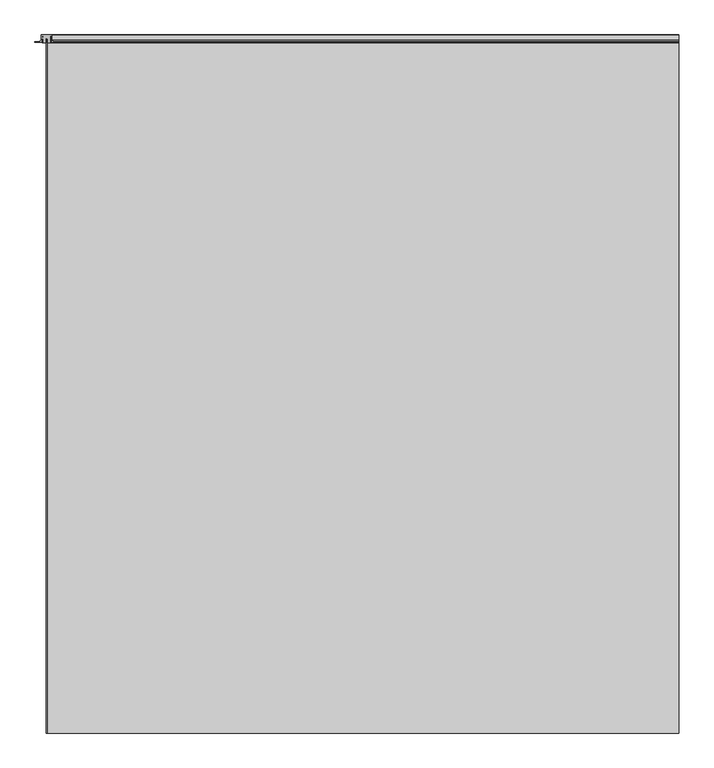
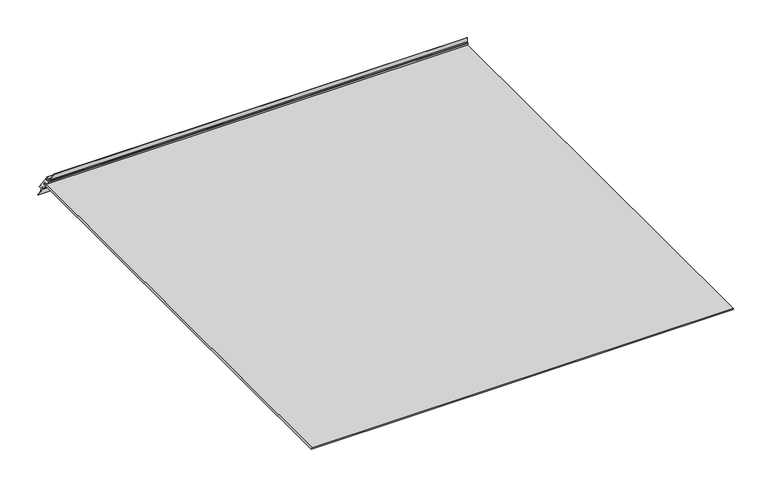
"""IFC4 building model written with IfcOpenShell, lengths in millimetres: proxy geometry, Specialy Equipment_Blindspace_TrackTrim-Click-to-Recess-Curtain-Tracks-Straight-Track : 2400 mm x 2600 mm."""

from ifc_helpers import new_model, si_unit, frame, origin, place, context, project, spatial, polyline, circle_curve, ellipse_curve, outline, extrude, source, transform, mapped, element, save
from ifc_brep_helpers import plane_surface, cylinder_surface, advanced_brep


def specialty_equipment_94f7accb(model_context):
    return source(origin(), model_context, "Body", "SolidModel", [
        advanced_brep(
        [(1200.0, 1300.0, -64.9988864), (1200.0, 1300.0, -25.0011136), (1200.0, 1299.4988864, -24.5), (1200.0, 1279.5663509, -24.5), (1200.0, 1274.5, -20.0957837), (1200.0, 1274.5, 0.0), (1200.0, 1272.4387528, 0.0), (1200.0, 1272.4387528, -24.3752503), (1200.0, 1270.0, -27.3062361), (1200.0, 1273.6097179, -27.3062361), (1200.0, 1295.5252948, -29.1221391), (1200.0, 1295.5252948, -31.1066667), (1200.0, 1270.0, -31.1066667), (1200.0, 1270.0, -42.0), (1200.0, 1286.4878459, -42.0), (1200.0, 1286.4878459, -48.0), (1200.0, 1270.0, -48.0), (1200.0, 1270.0, -58.8933333), (1200.0, 1295.5252948, -58.8933333), (1200.0, 1295.5252948, -60.8778609), (1200.0, 1273.6097179, -62.6937639), (1200.0, 1270.0, -62.6937639), (1200.0, 1272.4387528, -65.6247497), (1200.0, 1272.4387528, -90.0), (1200.0, 1274.5, -90.0), (1200.0, 1274.5, -69.9042163), (1200.0, 1279.5663509, -65.5), (1200.0, 1299.4988864, -65.5), (-1175.5, 1299.4988864, -65.5), (-1174.9988864, 1300.0, -64.9988864), (-1175.5, 1279.5663509, -65.5), (-1179.9042163, 1274.5, -69.9042163), (-1200.0, 1274.5, -90.0), (-1200.0, 1272.4387528, -90.0), (-1175.6247497, 1272.4387528, -65.6247497), (-1172.6937639, 1270.0, -62.6937639), (-1172.6937639, 1273.6097179, -62.6937639), (-1137.3062361, 1270.0, -27.3062361), (-1137.3062361, 1273.6097179, -27.3062361), (-1134.3752503, 1272.4387528, -24.3752503), (-1110.0, 1272.4387528, 0.0), (-1110.0, 1274.5, 0.0), (-1130.0957837, 1274.5, -20.0957837), (-1134.5, 1279.5663509, -24.5), (-1134.5, 1299.4988864, -24.5), (-1135.0011136, 1300.0, -25.0011136), (-1170.8778609, 1295.5252948, -60.8778609), (-1168.8933333, 1295.5252948, -58.8933333), (-1168.8933333, 1270.0, -58.8933333), (-1158.0, 1270.0, -48.0), (-1158.0, 1286.4878459, -48.0), (-1152.0, 1286.4878459, -42.0), (-1152.0, 1270.0, -42.0), (-1141.1066667, 1270.0, -31.1066667), (-1141.1066667, 1295.5252948, -31.1066667), (-1139.1221391, 1295.5252948, -29.1221391)],
        [
            (0, 1),
            (1, 2, circle_curve(frame((1200.0, 1299.4988864, -25.0011136), z_axis=(1.0, 0.0, 0.0), x_axis=(0.0, 1.0, 0.0)), 0.5011136)),
            (2, 3),
            (3, 4, circle_curve(frame((1200.0, 1275.9465479, -23.5478842), z_axis=(1.0, 0.0, 0.0), x_axis=(0.0, 1.0, 0.0)), 3.7429265)),
            (4, 5),
            (5, 6),
            (6, 7),
            (7, 8),
            (8, 9),
            (9, 10),
            (10, 11),
            (11, 12),
            (12, 13),
            (13, 14),
            (14, 15),
            (15, 16),
            (16, 17),
            (17, 18),
            (18, 19),
            (19, 20),
            (20, 21),
            (21, 22),
            (22, 23),
            (23, 24),
            (24, 25),
            (25, 26, circle_curve(frame((1200.0, 1275.9465479, -66.4521158), z_axis=(1.0, 0.0, 0.0), x_axis=(0.0, 1.0, 0.0)), 3.7429265)),
            (26, 27),
            (27, 0, circle_curve(frame((1200.0, 1299.4988864, -64.9988864), z_axis=(1.0, 0.0, 0.0), x_axis=(0.0, 1.0, 0.0)), 0.5011136)),
            (27, 28),
            (28, 29, ellipse_curve(frame((-1174.9988864, 1299.4988864, -64.9988864), z_axis=(0.7071067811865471, 0.0, -0.707106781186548), x_axis=(-0.7071067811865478, 0.0, -0.7071067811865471)), 0.7086816, 0.5011136)),
            (29, 0),
            (26, 30),
            (30, 28),
            (25, 31),
            (31, 30, ellipse_curve(frame((-1176.4521158, 1275.9465479, -66.4521158), z_axis=(0.7071067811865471, 0.0, -0.707106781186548), x_axis=(-0.7071067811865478, 0.0, -0.7071067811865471)), 5.2932974, 3.7429265)),
            (24, 32),
            (32, 31),
            (23, 33),
            (33, 32),
            (22, 34),
            (34, 33),
            (21, 35),
            (35, 34),
            (20, 36),
            (36, 35),
            (8, 37),
            (37, 38),
            (38, 9),
            (7, 39),
            (39, 37),
            (6, 40),
            (40, 39),
            (5, 41),
            (41, 40),
            (4, 42),
            (42, 41),
            (3, 43),
            (43, 42, ellipse_curve(frame((-1133.5478842, 1275.9465479, -23.5478842), z_axis=(0.7071067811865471, 0.0, -0.707106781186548), x_axis=(-0.7071067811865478, 0.0, -0.7071067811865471)), 5.2932974, 3.7429265)),
            (2, 44),
            (44, 43),
            (1, 45),
            (45, 44, ellipse_curve(frame((-1135.0011136, 1299.4988864, -25.0011136), z_axis=(0.7071067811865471, 0.0, -0.707106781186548), x_axis=(-0.7071067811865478, 0.0, -0.7071067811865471)), 0.7086816, 0.5011136)),
            (29, 45),
            (19, 46),
            (46, 36),
            (18, 47),
            (47, 46),
            (17, 48),
            (48, 47),
            (16, 49),
            (49, 48),
            (15, 50),
            (50, 49),
            (14, 51),
            (51, 50),
            (13, 52),
            (52, 51),
            (12, 53),
            (53, 52),
            (11, 54),
            (54, 53),
            (10, 55),
            (55, 54),
            (38, 55),
        ],
        [
            plane_surface(frame((1200.0, 1300.0, -24.5), z_axis=(1.0, 0.0, 0.0), x_axis=(0.0, 0.0, 1.0))),
            cylinder_surface(frame((-1200.0, 1299.4988864, -64.9988864), z_axis=(-1.0, 0.0, 0.0), x_axis=(0.0, 1.0, 0.0)), 0.5011136),
            plane_surface(frame((-1200.0, 1299.4988864, -65.5), z_axis=(0.0, 0.0, -1.0), x_axis=(1.0, 0.0, 0.0))),
            cylinder_surface(frame((-1200.0, 1275.9465479, -66.4521158), z_axis=(-1.0, 0.0, 0.0), x_axis=(0.0, 1.0, 0.0)), 3.7429265),
            plane_surface(frame((-1200.0, 1274.5, -69.9042163), z_axis=(0.0, 1.0, 0.0), x_axis=(1.0, 0.0, 0.0))),
            plane_surface(frame((-1200.0, 1274.5, -90.0), z_axis=(0.0, 0.0, -1.0), x_axis=(1.0, 0.0, 0.0))),
            plane_surface(frame((-1200.0, 1272.4387528, -90.0), z_axis=(0.0, -1.0, 0.0), x_axis=(1.0, 0.0, 0.0))),
            plane_surface(frame((-1200.0, 1272.4387528, -65.6247497), z_axis=(0.0, -0.7687028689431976, -0.6396060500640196), x_axis=(1.0, 0.0, 0.0))),
            plane_surface(frame((-1200.0, 1270.0, -62.6937639), z_axis=(0.0, 0.0, 1.0), x_axis=(1.0, 0.0, 0.0))),
            plane_surface(frame((-1200.0, 1273.6097179, -27.3062361), z_axis=(0.0, 0.0, -1.0), x_axis=(1.0, 0.0, 0.0))),
            plane_surface(frame((-1200.0, 1270.0, -27.3062361), z_axis=(0.0, -0.7687028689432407, 0.6396060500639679), x_axis=(1.0, 0.0, 0.0))),
            plane_surface(frame((-1200.0, 1272.4387528, -24.3752503), z_axis=(0.0, -1.0, 0.0), x_axis=(1.0, 0.0, 0.0))),
            plane_surface(frame((-1200.0, 1272.4387528, 0.0), z_axis=(0.0, 0.0, 1.0), x_axis=(1.0, 0.0, 0.0))),
            plane_surface(frame((-1200.0, 1274.5, 0.0), z_axis=(0.0, 1.0, 0.0), x_axis=(1.0, 0.0, 0.0))),
            cylinder_surface(frame((-1200.0, 1275.9465479, -23.5478842), z_axis=(-1.0, 0.0, 0.0), x_axis=(0.0, 1.0, 0.0)), 3.7429265),
            plane_surface(frame((-1200.0, 1279.5663509, -24.5), z_axis=(0.0, 0.0, 1.0), x_axis=(1.0, 0.0, 0.0))),
            cylinder_surface(frame((-1200.0, 1299.4988864, -25.0011136), z_axis=(-1.0, 0.0, 0.0), x_axis=(0.0, 1.0, 0.0)), 0.5011136),
            plane_surface(frame((-1200.0, 1300.0, -25.0011136), z_axis=(0.0, 1.0, 0.0), x_axis=(1.0, 0.0, 0.0))),
            plane_surface(frame((-1200.0, 1273.6097179, -62.6937639), z_axis=(0.0, -0.08257602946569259, 0.9965847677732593), x_axis=(1.0, 0.0, 0.0))),
            plane_surface(frame((-1200.0, 1295.5252948, -60.8778609), z_axis=(0.0, -1.0, 0.0), x_axis=(1.0, 0.0, 0.0))),
            plane_surface(frame((-1200.0, 1295.5252948, -58.8933333), z_axis=(0.0, 0.0, -1.0), x_axis=(1.0, 0.0, 0.0))),
            plane_surface(frame((-1200.0, 1270.0, -58.8933333), z_axis=(0.0, -1.0, 0.0), x_axis=(1.0, 0.0, 0.0))),
            plane_surface(frame((-1200.0, 1270.0, -48.0), z_axis=(0.0, 0.0, 1.0), x_axis=(1.0, 0.0, 0.0))),
            plane_surface(frame((-1200.0, 1286.4878459, -48.0), z_axis=(0.0, -1.0, 0.0), x_axis=(1.0, 0.0, 0.0))),
            plane_surface(frame((-1200.0, 1286.4878459, -42.0), z_axis=(0.0, 0.0, -1.0), x_axis=(1.0, 0.0, 0.0))),
            plane_surface(frame((-1200.0, 1270.0, -42.0), z_axis=(0.0, -1.0, 0.0), x_axis=(1.0, 0.0, 0.0))),
            plane_surface(frame((-1200.0, 1270.0, -31.1066667), z_axis=(0.0, 0.0, 1.0), x_axis=(1.0, 0.0, 0.0))),
            plane_surface(frame((-1200.0, 1295.5252948, -31.1066667), z_axis=(0.0, -1.0, 0.0), x_axis=(1.0, 0.0, 0.0))),
            plane_surface(frame((-1200.0, 1295.5252948, -29.1221391), z_axis=(0.0, -0.08257602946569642, -0.996584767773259), x_axis=(1.0, 0.0, 0.0))),
            plane_surface(frame((-1215.0957684, -1300.0, -105.0957684), z_axis=(-0.7071067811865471, 0.0, 0.707106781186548), x_axis=(0.0, 1.0, 0.0))),
        ],
        [
            (0, [[1, 2, 3, 4, 5, 6, 7, 8, 9, 10, 11, 12, 13, 14, 15, 16, 17, 18, 19, 20, 21, 22, 23, 24, 25, 26, 27, 28]]),
            (1, [[-28, 29, 30, 31]]),
            (2, [[-27, 32, 33, -29]]),
            (3, [[-26, 34, 35, -32]]),
            (4, [[-25, 36, 37, -34]]),
            (5, [[-24, 38, 39, -36]]),
            (6, [[-23, 40, 41, -38]]),
            (7, [[-22, 42, 43, -40]]),
            (8, [[-21, 44, 45, -42]]),
            (9, [[-9, 46, 47, 48]]),
            (10, [[-8, 49, 50, -46]]),
            (11, [[-7, 51, 52, -49]]),
            (12, [[-6, 53, 54, -51]]),
            (13, [[-5, 55, 56, -53]]),
            (14, [[-4, 57, 58, -55]]),
            (15, [[-3, 59, 60, -57]]),
            (16, [[-2, 61, 62, -59]]),
            (17, [[-1, -31, 63, -61]]),
            (18, [[-20, 64, 65, -44]]),
            (19, [[-19, 66, 67, -64]]),
            (20, [[-18, 68, 69, -66]]),
            (21, [[-17, 70, 71, -68]]),
            (22, [[-16, 72, 73, -70]]),
            (23, [[-15, 74, 75, -72]]),
            (24, [[-14, 76, 77, -74]]),
            (25, [[-13, 78, 79, -76]]),
            (26, [[-12, 80, 81, -78]]),
            (27, [[-11, 82, 83, -80]]),
            (28, [[-10, -48, 84, -82]]),
            (29, [[-30, -33, -35, -37, -39, -41, -43, -45, -65, -67, -69, -71, -73, -75, -77, -79, -81, -83, -84, -47, -50, -52, -54, -56, -58, -60, -62, -63]]),
        ],
    ),
        extrude(outline(polyline([(-48.0, 1200.0), (-42.0, 1200.0), (-42.0, -1152.0), (-48.0, -1158.0), (-48.0, 1200.0)])), frame((0.0, -1300.0, 0.0), z_axis=(0.0, 1.0, 0.0), x_axis=(0.0, 0.0, 1.0)), (0.0, 0.0, 1.0), 2586.4878459),
    ])


if __name__ == "__main__":
    model = new_model("IFC4")
    model_context = context("Model", 3, world=origin())
    ifc_project = project(units=[si_unit("LENGTHUNIT", "METRE", prefix="MILLI")], contexts=[model_context])
    site = spatial("IfcSite", under=ifc_project)
    building = spatial("IfcBuilding", under=site)
    placement = place(None, origin())
    specialty_equipment_shape = specialty_equipment_94f7accb(model_context)
    element("IfcBuildingElementProxy", 1, Name="Specialy Equipment_Blindspace_TrackTrim-Click-to-Recess-Curtain-Tracks-Straight-Track : 2400 mm x 2600 mm", ObjectType="Specialy Equipment_Blindspace_TrackTrim-Click-to-Recess-Curtain-Tracks-Straight-Track : 2400 mm x 2600 mm", at=placement, inside=building, context=model_context, shape_type="MappedRepresentation", body=[
        mapped(specialty_equipment_shape, transform((0.0, 0.0, 0.0), x_axis=(1.0, 0.0, 0.0), y_axis=(0.0, 1.0, 0.0), z_axis=(0.0, 0.0, 1.0))),
    ])
    save(model, "model.ifc")
